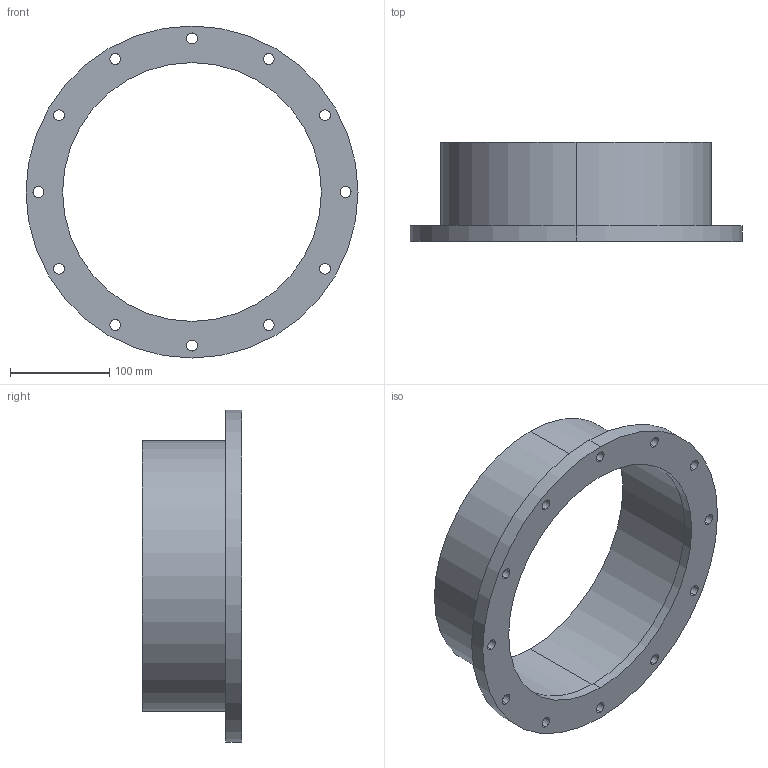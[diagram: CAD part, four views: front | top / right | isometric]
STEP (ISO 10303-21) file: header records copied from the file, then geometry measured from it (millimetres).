
FILE_DESCRIPTION (( 'STEP AP214' ), '1' );
FILE_NAME ('W5KR250.STEP', '2021-09-21T07:08:48', ( '' ), ( '' ), 'SwSTEP 2.0', 'SolidWorks 2020', '' );
FILE_SCHEMA (( 'AUTOMOTIVE_DESIGN' ));
Length unit declared in the file: millimetre
Products named in the file (1): W5KR250
Bounding box: 335 x 100 x 335 mm (x, y, z)
Volume: 809605.6 mm3; surface area: 262614.8 mm2
Topology: 2 solids, 2 shells, 39 faces, 102 edges, 68 vertices
Faces by surface type: cylinder 34, plane 5
Entity records: 1343 total; most frequent: DIRECTION 250, CARTESIAN_POINT 210, ORIENTED_EDGE 204, AXIS2_PLACEMENT_3D 108, EDGE_CURVE 102, VERTEX_POINT 68, EDGE_LOOP 68, CIRCLE 68
